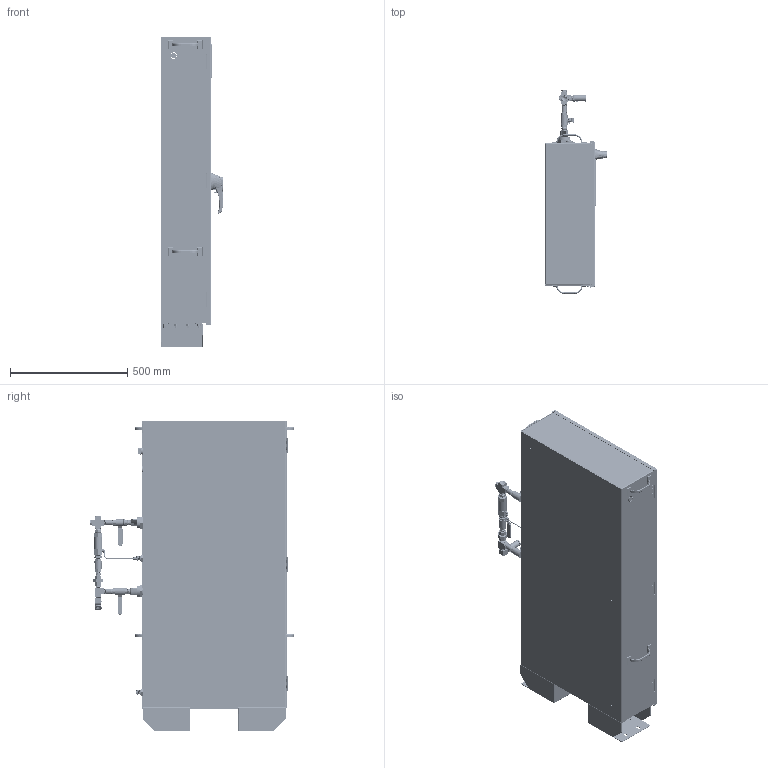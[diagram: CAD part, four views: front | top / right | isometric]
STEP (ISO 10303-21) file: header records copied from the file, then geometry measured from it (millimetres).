
FILE_DESCRIPTION(/* description */ (''),/* implementation_level */ '2;1');
FILE_NAME(/* name */ 'C:\Vault Local\Designs\CAD\Manufacturing\ECS Products\PGEN Nitrogen Generators\PGEN-40\Export\AG-11000.stp',/* time_stamp */ '2021-08-06T10:29:15-05:00',/* author */ ('atroll'),/* organization */ (''),/* preprocessor_version */ 'ST-DEVELOPER v18.1',/* originating_system */ 'Autodesk Inventor 2020',/* authorisation */ '');
FILE_SCHEMA (('AUTOMOTIVE_DESIGN { 1 0 10303 214 3 1 1 }'));
Products named in the file (1): AG-11000_Shrinkwrap_1
Bounding box: 266 x 869.43 x 1325.84 mm (x, y, z)
Volume: 5788693.4 mm3; surface area: 5623606.1 mm2
Topology: 6 solids, 53 shells, 6052 faces, 19290 edges, 13177 vertices
Faces by surface type: plane 2532, cylinder 1379, cone 1195, bspline 662, torus 189, sphere 95
Full cylindrical faces by diameter (mm): 0.5 x8, 1 x20, 1.905 x2, 2 x2, 2.286 x8, 2.8 x4, 3 x3, 3.175 x4, 3.3 x1, 3.5 x7, 3.7 x1, 3.8 x2, 3.969 x3, 4.1 x3, 5 x1, 5.156 x4, 6.35 x6, 6.6 x2, 6.607 x1, 6.909 x2, 6.945 x1, 7.057 x28, 7.2 x2, 7.233 x1, 7.772 x1, 7.785 x25, 7.836 x6, 7.952 x1, 8 x2, 8.458 x6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
Entity records: 499555 total; most frequent: CARTESIAN_POINT 331767, ORIENTED_EDGE 35619, DIRECTION 30597, EDGE_CURVE 19245, VERTEX_POINT 13177, AXIS2_PLACEMENT_3D 10554, LINE 9489, VECTOR 9489
